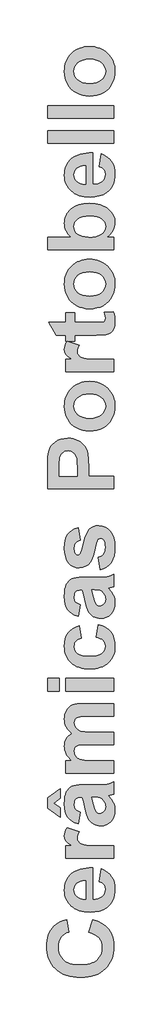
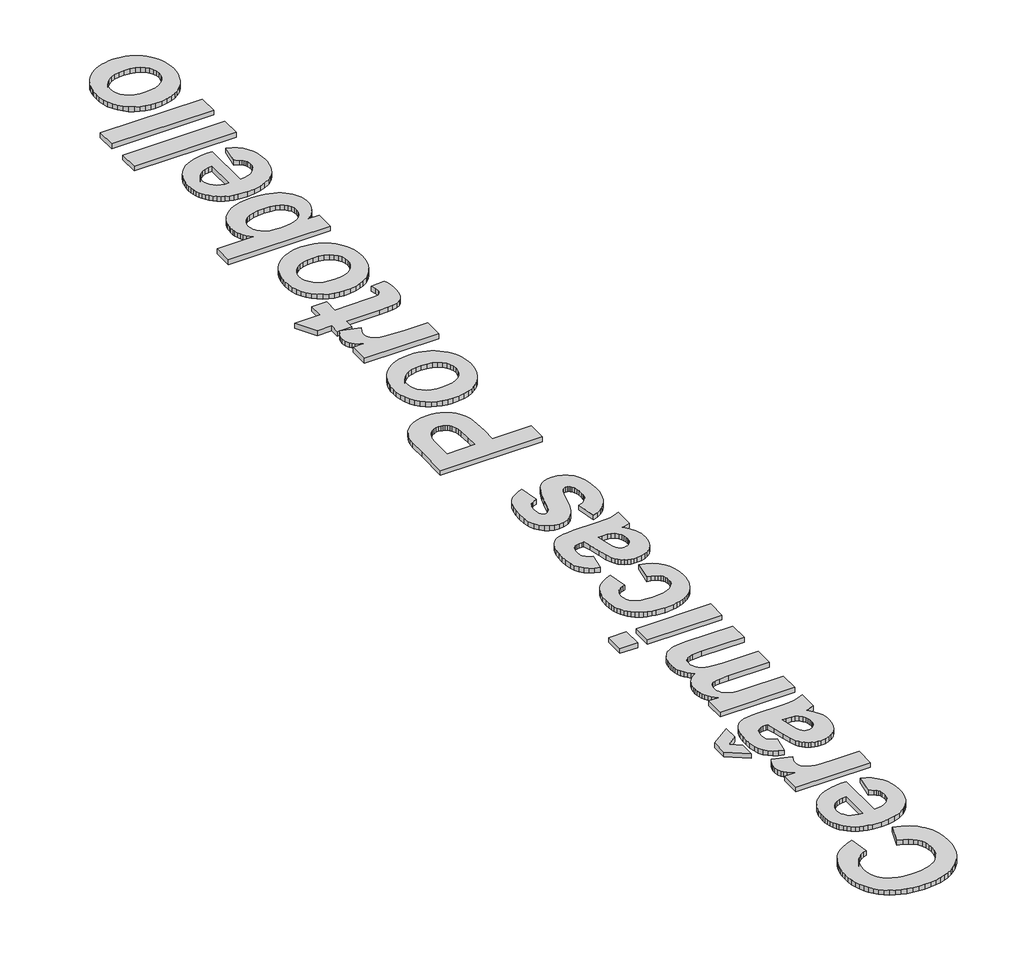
# One storey, part 5 of 8: 1 proxy.
"""IFC4 building model written with IfcOpenShell, lengths in millimetres."""

from ifc_helpers import new_model, si_unit, origin, origin_with_axes, place, context, project, spatial, polyline, outline, extrude, element, save

model = new_model("IFC4")

# Units and contexts
model_context = context("Model", 3, world=origin())
ifc_project = project(units=[si_unit("LENGTHUNIT", "METRE", prefix="MILLI")], contexts=[model_context])

# Site, building, storey
site = spatial("IfcSite", under=ifc_project)
building = spatial("IfcBuilding", under=site)
storey = spatial("IfcBuildingStorey", under=building, Name="PORTOBELLO - SHOWROOM", Elevation=0.0)

# Proxy
placement = place(None, origin())
element("IfcBuildingElementProxy", 1, Name="1000mm Arial", ObjectType="1000mm Arial", at=placement, inside=storey, context=model_context, shape_type="SweptSolid", body=[
    extrude(outline(polyline([(-12629.4721543, -6148.9640974), (-12564.6937797, -5954.6289736), (-12487.8564426, -5981.4670843), (-12421.5677323, -6015.9280409), (-12365.827649, -6058.0118434), (-12341.9133425, -6081.9123118), (-12320.6361926, -6107.7184917), (-12285.7086925, -6164.8423904), (-12260.7604782, -6229.177944), (-12245.7915496, -6300.7251527), (-12240.8019067, -6379.4840164), (-12242.9329824, -6429.2736936), (-12249.3262094, -6476.7939136), (-12259.9815878, -6522.0446763), (-12274.8991176, -6565.0259819), (-12294.0787987, -6605.7378302), (-12317.5206311, -6644.1802214), (-12345.224615, -6680.3531553), (-12377.1907501, -6714.256632), (-12412.8536492, -6744.9773333), (-12451.6479248, -6771.6019411), (-12493.573577, -6794.1304554), (-12538.6306056, -6812.5628762), (-12586.8190107, -6826.8992035), (-12638.1387923, -6837.1394373), (-12692.5899505, -6843.2835776), (-12750.1724851, -6845.3316243), (-12810.989194, -6843.2657857), (-12868.3107806, -6837.0682697), (-12922.137245, -6826.7390763), (-12972.468587, -6812.2782056), (-13019.3048069, -6793.6856576), (-13062.6459044, -6770.9614323), (-13102.4918797, -6744.1055296), (-13138.8427327, -6713.1179496), (-13171.2833189, -6678.7617676), (-13199.3984936, -6641.8000589), (-13223.1882567, -6602.2328236), (-13242.6526084, -6560.0600616), (-13257.7915486, -6515.2817729), (-13268.6050774, -6467.8979576), (-13275.0931946, -6417.9086156), (-13277.2559003, -6365.3137469), (-13275.4727554, -6319.3552614), (-13270.1233205, -6275.6108805), (-13261.2075957, -6234.0806042), (-13248.7255811, -6194.7644325), (-13232.6772765, -6157.6623654), (-13213.062682, -6122.774403), (-13189.8817975, -6090.1005451), (-13163.1346232, -6059.6407918), (-13125.7953306, -6026.7929685), (-13081.0862327, -5998.3417244), (-13029.0073295, -5974.2870594), (-12969.558621, -5954.6289736), (-12937.1694337, -6148.9640974), (-12972.7611651, -6161.2128403), (-13004.3833233, -6178.7279892), (-13032.0359083, -6201.5095441), (-13055.71892, -6229.5575048), (-13074.704867, -6261.8913395), (-13088.2662576, -6297.5305161), (-13096.4030921, -6336.4750345), (-13099.1153702, -6378.7248948), (-13094.1889875, -6436.4734873), (-13079.4098392, -6488.5128529), (-13054.7779256, -6534.8429917), (-13020.2932464, -6575.4639036), (-12999.0635417, -6593.166856), (-12974.7854893, -6608.5094147), (-12947.4590894, -6621.4915798), (-12917.084342, -6632.1133513), (-12847.1898042, -6646.2757132), (-12765.1018762, -6650.9965005), (-12678.2140856, -6646.4180485), (-12604.8007031, -6632.6826925), (-12573.1469148, -6622.3811754), (-12544.8617285, -6609.7904324), (-12519.9451443, -6594.9104634), (-12498.397162, -6577.7412683), (-12463.6357197, -6538.353929), (-12438.8061182, -6493.4471432), (-12423.9083572, -6443.0209109), (-12418.9424369, -6387.0752321), (-12422.113351, -6345.4263431), (-12431.6260932, -6306.7664953), (-12447.4806637, -6271.0956886), (-12469.6770623, -6238.4139232), (-12498.6897401, -6209.4328755), (-12534.993148, -6184.864222), (-12578.5872861, -6164.7079626), (-12629.4721543, -6148.9640974)])), origin_with_axes(), (0.0, 0.0, 1.0), 50.0),
    extrude(outline(polyline([(-12467.5262178, -5371.6236022), (-12435.1370305, -5177.2884784), (-12386.7193074, -5198.290842), (-12344.4536321, -5224.6070567), (-12308.3400046, -5256.2371224), (-12278.3784248, -5293.1810392), (-12254.8535634, -5335.2648416), (-12238.050091, -5382.3145644), (-12227.9680076, -5434.3302075), (-12224.6073131, -5491.3117709), (-12226.5881459, -5536.8472042), (-12232.5306445, -5579.3224287), (-12242.4348089, -5618.7374444), (-12256.3006389, -5655.0922512), (-12274.1281347, -5688.3868491), (-12295.9172963, -5718.6212382), (-12321.6681235, -5745.7954184), (-12351.3806165, -5769.9093898), (-12405.4522139, -5801.1282646), (-12466.1977551, -5823.427461), (-12533.6172402, -5836.8069788), (-12607.7106691, -5841.266818), (-12695.0729106, -5835.3519957), (-12735.0058686, -5827.9584679), (-12772.4400514, -5817.6075289), (-12807.375459, -5804.2991787), (-12839.8120914, -5788.0334174), (-12869.7499486, -5768.810245), (-12897.1890306, -5746.6296614), (-12921.7418691, -5722.1875281), (-12943.0209958, -5696.1797066), (-12961.0264108, -5668.6061968), (-12975.7581139, -5639.4669987), (-12987.2161052, -5608.7621124), (-12995.4003847, -5576.4915379), (-13000.3109524, -5542.6552751), (-13001.9478083, -5507.253324), (-13000.267461, -5467.7117881), (-12995.2264193, -5430.3131891), (-12986.8246831, -5395.0575271), (-12975.0622524, -5361.9448021), (-12959.9391272, -5330.975014), (-12941.4553076, -5302.1481628), (-12919.6107935, -5275.4642486), (-12894.4055848, -5250.9232714), (-12865.7289765, -5228.983867), (-12833.4702632, -5210.1046716), (-12797.629445, -5194.2856849), (-12758.2065218, -5181.5269072), (-12715.2014937, -5171.8283383), (-12668.6143607, -5165.1899782), (-12618.4451227, -5161.611827), (-12564.6937797, -5161.0938847), (-12564.6937797, -5646.9316942), (-12521.2024394, -5643.3100517), (-12482.8351696, -5634.4694483), (-12449.5919706, -5620.4098841), (-12421.4728421, -5601.1313591), (-12399.1103857, -5577.8990758), (-12383.1372025, -5551.9782369), (-12373.5532926, -5523.3688425), (-12370.3586559, -5492.0708924), (-12376.1153279, -5451.2681077), (-12383.3111678, -5433.4761957), (-12393.3853438, -5417.4239373), (-12406.6541563, -5403.1745927), (-12423.4339062, -5390.791422), (-12467.5262178, -5371.6236022)]), holes=[polyline([(-12678.0559353, -5355.4290085), (-12719.088038, -5358.8925007), (-12754.8853649, -5367.2586531), (-12785.4479159, -5380.5274657), (-12810.7756911, -5398.6989384), (-12830.6472798, -5420.4287936), (-12844.8412718, -5444.3727533), (-12853.357667, -5470.5308177), (-12856.1964654, -5498.9029866), (-12853.2074242, -5529.0464393), (-12844.2403006, -5556.4697063), (-12829.2950945, -5581.1727876), (-12808.3718061, -5603.1556833), (-12782.1979267, -5621.0583005), (-12751.7539884, -5633.7735869), (-12717.0399913, -5641.3015425), (-12678.0559353, -5643.6421674), (-12678.0559353, -5355.4290085)])]), origin_with_axes(), (0.0, 0.0, 1.0), 50.0),
    extrude(outline(polyline([(-12240.8019067, -4821.0074181), (-12240.8019067, -5015.3425419), (-12985.7532146, -5015.3425419), (-12985.7532146, -4821.0074181), (-12882.0065991, -4821.0074181), (-12943.0209958, -4779.9515928), (-12964.0628971, -4761.0842586), (-12978.7946002, -4743.3239767), (-12996.1595063, -4706.5065801), (-13001.9478083, -4664.8814137), (-12999.385773, -4634.2793251), (-12991.699667, -4604.2149476), (-12978.8894904, -4574.6882812), (-12960.9552431, -4545.699326), (-12775.9826188, -4602.3804038), (-12799.7051681, -4649.1929011), (-12805.6358054, -4671.2706869), (-12807.6126845, -4692.462831), (-12802.077423, -4729.8179386), (-12795.1583461, -4746.14696), (-12785.4716385, -4760.9102932), (-12772.1791034, -4774.1474757), (-12754.442544, -4785.8980451), (-12705.6373526, -4804.9393447), (-12668.8832162, -4811.9691268), (-12616.314047, -4816.9903997), (-12463.7306099, -4821.0074181), (-12240.8019067, -4821.0074181)])), origin_with_axes(), (0.0, 0.0, 1.0), 50.0),
    extrude(outline(polyline([(-12759.0289035, -4302.7804213), (-12791.4180908, -4480.9209514), (-12841.5833751, -4464.1807391), (-12884.7900448, -4442.3006412), (-12921.0381002, -4415.2806575), (-12950.327541, -4383.1207882), (-12972.911408, -4344.1920848), (-12989.0427415, -4296.865599), (-12998.7215416, -4241.1413307), (-13001.9478083, -4177.0192799), (-12999.9946517, -4118.8674041), (-12994.1351821, -4068.6546748), (-12984.3693993, -4026.3810919), (-12970.6973034, -3992.0466556), (-12954.0282587, -3963.9275272), (-12935.2716297, -3940.2998681), (-12914.4274164, -3921.1636783), (-12891.4956188, -3906.5189579), (-12862.498756, -3895.6698453), (-12823.4593474, -3887.9204792), (-12774.3773929, -3883.2708596), (-12715.2528926, -3881.7209864), (-12485.4920952, -3881.7209864), (-12400.217438, -3879.158951), (-12340.7529144, -3871.4728451), (-12292.4854341, -3856.7648645), (-12240.8019067, -3833.1372054), (-12240.8019067, -4027.4723292), (-12302.543795, -4045.6912471), (-12327.088726, -4052.5233413), (-12282.332183, -4102.8151458), (-12250.2909264, -4156.5229974), (-12239.0543456, -4184.6895709), (-12231.0282164, -4213.7734163), (-12226.2125389, -4243.7745337), (-12224.6073131, -4274.6929229), (-12228.5057187, -4327.1751095), (-12240.2009355, -4373.7899188), (-12259.6929635, -4414.537351), (-12286.9818027, -4449.417406), (-12320.2170942, -4477.3704765), (-12357.5484793, -4497.3369555), (-12398.9759579, -4509.3168429), (-12444.49953, -4513.3101387), (-12475.1490637, -4511.5309475), (-12504.0905738, -4506.1933739), (-12531.3240604, -4497.2974179), (-12556.8495234, -4484.8430796), (-12580.0818067, -4469.1782895), (-12600.435754, -4450.6509785), (-12617.9113653, -4429.2611466), (-12632.5086406, -4405.0087937), (-12657.1168318, -4342.3180034), (-12678.3089758, -4256.9800861), (-12703.2967277, -4146.4646365), (-12726.6397162, -4076.0561102), (-12747.1359988, -4076.0561102), (-12774.4960057, -4077.5664458), (-12797.6175837, -4082.0974527), (-12816.500733, -4089.6491309), (-12831.1454534, -4100.2214804), (-12842.1052712, -4114.9689985), (-12849.9337124, -4135.0461827), (-12854.6307772, -4160.453033), (-12856.1964654, -4191.1895494), (-12850.8193543, -4231.4862531), (-12844.0979653, -4247.8864422), (-12834.6880207, -4261.7878561), (-12821.8936592, -4273.8389111), (-12805.0190191, -4284.6880237), (-12759.0289035, -4302.7804213)]), holes=[polyline([(-12580.8883734, -4076.0561102), (-12553.9395574, -4185.6226578), (-12538.4724552, -4247.6175866), (-12523.1951335, -4283.8023818), (-12510.2109915, -4299.1904088), (-12495.5504561, -4310.1818566), (-12479.2135271, -4316.7767253), (-12461.2002047, -4318.9750149), (-12443.3529401, -4317.2116387), (-12426.7550631, -4311.9215103), (-12411.4065737, -4303.1046294), (-12397.3074719, -4290.7609963), (-12385.5173649, -4275.6971775), (-12377.0958599, -4258.7197397), (-12372.0429569, -4239.828683), (-12370.3586559, -4219.0240072), (-12372.31972, -4194.9060821), (-12378.2029122, -4171.3891283), (-12388.0082326, -4148.4731456), (-12401.7356811, -4126.1581343), (-12428.1784161, -4098.9562777), (-12459.9350021, -4083.1412449), (-12492.64049, -4077.8273938), (-12545.7157403, -4076.0561102), (-12580.8883734, -4076.0561102)])]), origin_with_axes(), (0.0, 0.0, 1.0), 50.0),
    extrude(outline(polyline([(-13066.7261829, -4383.7533895), (-13261.0613067, -4245.0871814), (-13261.0613067, -4083.1412449), (-13066.7261829, -3946.499361), (-13066.7261829, -4092.2507038), (-13163.8937448, -4165.1263752), (-13066.7261829, -4238.0020467), (-13066.7261829, -4383.7533895)])), origin_with_axes(), (0.0, 0.0, 1.0), 50.0),
    extrude(outline(polyline([(-12985.7532146, -3703.5804562), (-12985.7532146, -3509.2453324), (-12886.0552475, -3509.2453324), (-12913.2175664, -3485.8667601), (-12936.7582428, -3461.404858), (-12956.6772767, -3435.8596262), (-12972.9746681, -3409.2310646), (-12985.6504169, -3381.5191733), (-12994.7045232, -3352.7239522), (-13000.136987, -3322.8454013), (-13001.9478083, -3291.8835208), (-13000.1686171, -3259.4706109), (-12994.8310435, -3229.2876207), (-12985.9350875, -3201.3345501), (-12973.4807491, -3175.6113992), (-12957.4205833, -3152.1023528), (-12937.7071448, -3130.791596), (-12914.3404338, -3111.6791288), (-12887.3204501, -3094.7649512), (-12914.3404338, -3070.370263), (-12937.7071448, -3045.0108578), (-12957.4205833, -3018.6867356), (-12973.4807491, -2991.3978964), (-12985.9350875, -2963.1601552), (-12994.8310435, -2933.9893271), (-13000.1686171, -2903.8854121), (-13001.9478083, -2872.8484101), (-12999.8681315, -2834.4020652), (-12993.629101, -2799.0238367), (-12983.2307169, -2766.7137245), (-12968.6729791, -2737.4717288), (-12950.082408, -2711.5034448), (-12927.5855238, -2689.0144681), (-12901.1823264, -2670.0047986), (-12870.8728159, -2654.4744363), (-12843.4021039, -2645.8394284), (-12808.5615865, -2639.6715656), (-12716.7711357, -2634.7372753), (-12240.8019067, -2634.7372753), (-12240.8019067, -2829.0723991), (-12669.7055979, -2829.0723991), (-12761.4960487, -2834.0066894), (-12792.5409582, -2840.1745522), (-12813.6856571, -2848.8095601), (-12832.2841357, -2863.7705812), (-12845.5687634, -2882.3374298), (-12853.5395399, -2904.5101059), (-12856.1964654, -2930.2886094), (-12854.6070546, -2949.9862328), (-12849.8388222, -2969.0987001), (-12830.7658926, -3005.5681658), (-12816.5719006, -3021.9841699), (-12799.4204975, -3035.9330289), (-12779.3116832, -3047.4147428), (-12756.2454578, -3056.4293115), (-12728.1421444, -3063.2376832), (-12692.9220662, -3068.1008058), (-12601.1316154, -3071.9913039), (-12240.8019067, -3071.9913039), (-12240.8019067, -3266.3264277), (-12651.9927611, -3266.3264277), (-12742.1068184, -3268.8568329), (-12793.3158948, -3276.4480487), (-12821.0238324, -3289.3214854), (-12840.6344731, -3307.6985536), (-12852.3059674, -3332.6546755), (-12856.1964654, -3365.2652732), (-12854.6544997, -3386.5997526), (-12850.0286026, -3406.8271796), (-12842.3187741, -3425.9475543), (-12831.5250142, -3443.9608768), (-12817.8133807, -3460.1871005), (-12801.3499315, -3473.9461791), (-12782.1346665, -3485.2381125), (-12760.1675859, -3494.0629009), (-12732.9894519, -3500.7052147), (-12698.141027, -3505.4497245), (-12605.4333044, -3509.2453324), (-12240.8019067, -3509.2453324), (-12240.8019067, -3703.5804562), (-12985.7532146, -3703.5804562)])), origin_with_axes(), (0.0, 0.0, 1.0), 50.0),
    extrude(outline(polyline([(-12240.8019067, -2440.4021515), (-12985.7532146, -2440.4021515), (-12985.7532146, -2246.0670277), (-12240.8019067, -2246.0670277), (-12240.8019067, -2440.4021515)])), origin_with_axes(), (0.0, 0.0, 1.0), 50.0),
    extrude(outline(polyline([(-13082.9207765, -2440.4021515), (-13261.0613067, -2440.4021515), (-13261.0613067, -2246.0670277), (-13082.9207765, -2246.0670277), (-13082.9207765, -2440.4021515)])), origin_with_axes(), (0.0, 0.0, 1.0), 50.0),
    extrude(outline(polyline([(-12775.2234972, -1436.3373452), (-12742.8343099, -1630.672469), (-12769.3007674, -1636.674274), (-12792.2721026, -1645.57023), (-12811.7483156, -1657.3603369), (-12827.7294063, -1672.044595), (-12840.1837447, -1689.3857785), (-12849.0797006, -1709.1466621), (-12854.4172742, -1731.3272456), (-12856.1964654, -1755.9275293), (-12852.8594935, -1788.4748669), (-12842.8485777, -1817.5428973), (-12826.163718, -1843.1316205), (-12802.8049145, -1865.2410364), (-12771.6334847, -1883.0645784), (-12731.5107464, -1895.7956799), (-12682.4366994, -1903.4343408), (-12624.4113438, -1905.980561), (-12559.9334548, -1903.331543), (-12505.6720771, -1895.384489), (-12461.6272106, -1882.139399), (-12427.7988553, -1863.596273), (-12402.6687681, -1840.5933077), (-12384.7187058, -1813.9686999), (-12373.9486684, -1783.7224495), (-12370.3586559, -1749.8545566), (-12372.4067027, -1724.3686312), (-12378.550843, -1701.3024058), (-12388.7910767, -1680.6558804), (-12403.127404, -1662.429055), (-12422.4770967, -1646.6693747), (-12447.7574268, -1633.4242847), (-12478.9683941, -1622.6937849), (-12516.1099988, -1614.4778753), (-12483.7208115, -1420.1427515), (-12423.5050739, -1438.0532763), (-12371.1494076, -1462.6851899), (-12326.6538126, -1494.0384926), (-12290.018289, -1532.1131842), (-12261.400987, -1577.0674151), (-12240.9600571, -1629.0593356), (-12228.6954991, -1688.0889458), (-12224.6073131, -1754.1562456), (-12226.2164927, -1792.69155), (-12231.0440315, -1829.2222991), (-12239.0899294, -1863.7484927), (-12250.3541866, -1896.2701309), (-12264.8368029, -1926.7872137), (-12282.5377785, -1955.299741), (-12303.4571132, -1981.807713), (-12327.5948071, -2006.3111295), (-12354.5752531, -2028.3434472), (-12384.0228443, -2047.4381225), (-12415.9375806, -2063.5951554), (-12450.3194621, -2076.814546), (-12487.1684886, -2087.0962943), (-12526.4846603, -2094.4404001), (-12612.5184391, -2100.3156848), (-12699.5248424, -2094.4799377), (-12739.202783, -2087.1852538), (-12776.3305495, -2076.9726963), (-12810.908142, -2063.8422653), (-12842.9355604, -2047.7939607), (-12872.4128048, -2028.8277826), (-12899.3398751, -2006.9437308), (-12923.3886094, -1982.5688114), (-12944.2308459, -1956.1300303), (-12961.8665844, -1927.6273873), (-12976.295825, -1897.0608825), (-12987.5185677, -1864.430516), (-12995.5348125, -1829.7362876), (-13000.3445593, -1792.9781975), (-13001.9478083, -1754.1562456), (-12998.4447785, -1692.3352821), (-12987.9356892, -1637.1882625), (-12970.4205403, -1588.7151868), (-12945.8993318, -1546.916055), (-12914.2139135, -1511.1582657), (-12875.2061349, -1480.8092176), (-12828.8759962, -1455.8689108), (-12775.2234972, -1436.3373452)])), origin_with_axes(), (0.0, 0.0, 1.0), 50.0),
    extrude(outline(polyline([(-12759.0289035, -1112.4454722), (-12791.4180908, -1290.5860023), (-12841.5833751, -1273.8457901), (-12884.7900448, -1251.9656921), (-12921.0381002, -1224.9457085), (-12950.327541, -1192.7858391), (-12972.911408, -1153.8571357), (-12989.0427415, -1106.5306499), (-12998.7215416, -1050.8063816), (-13001.9478083, -986.6843309), (-12999.9946517, -928.532455), (-12994.1351821, -878.3197257), (-12984.3693993, -836.0461429), (-12970.6973034, -801.7117065), (-12954.0282587, -773.5925781), (-12935.2716297, -749.964919), (-12914.4274164, -730.8287292), (-12891.4956188, -716.1840088), (-12862.498756, -705.3348963), (-12823.4593474, -697.5855302), (-12774.3773929, -692.9359105), (-12715.2528926, -691.3860373), (-12485.4920952, -691.3860373), (-12400.217438, -688.824002), (-12340.7529144, -681.137896), (-12292.4854341, -666.4299154), (-12240.8019067, -642.8022563), (-12240.8019067, -837.1373801), (-12302.543795, -855.356298), (-12327.088726, -862.1883922), (-12282.332183, -912.4801967), (-12250.2909264, -966.1880483), (-12239.0543456, -994.3546218), (-12231.0282164, -1023.4384672), (-12226.2125389, -1053.4395846), (-12224.6073131, -1084.3579738), (-12228.5057187, -1136.8401604), (-12240.2009355, -1183.4549697), (-12259.6929635, -1224.2024019), (-12286.9818027, -1259.0824569), (-12320.2170942, -1287.0355275), (-12357.5484793, -1307.0020065), (-12398.9759579, -1318.9818938), (-12444.49953, -1322.9751896), (-12475.1490637, -1321.1959984), (-12504.0905738, -1315.8584249), (-12531.3240604, -1306.9624689), (-12556.8495234, -1294.5081305), (-12580.0818067, -1278.8433404), (-12600.435754, -1260.3160294), (-12617.9113653, -1238.9261975), (-12632.5086406, -1214.6738446), (-12657.1168318, -1151.9830543), (-12678.3089758, -1066.645137), (-12703.2967277, -956.1296874), (-12726.6397162, -885.7211611), (-12747.1359988, -885.7211611), (-12774.4960057, -887.2314967), (-12797.6175837, -891.7625036), (-12816.500733, -899.3141818), (-12831.1454534, -909.8865313), (-12842.1052712, -924.6340494), (-12849.9337124, -944.7112337), (-12854.6307772, -970.118084), (-12856.1964654, -1000.8546003), (-12850.8193543, -1041.1513041), (-12844.0979653, -1057.5514931), (-12834.6880207, -1071.452907), (-12821.8936592, -1083.5039621), (-12805.0190191, -1094.3530746), (-12759.0289035, -1112.4454722)]), holes=[polyline([(-12580.8883734, -885.7211611), (-12553.9395574, -995.2877088), (-12538.4724552, -1057.2826376), (-12523.1951335, -1093.4674328), (-12510.2109915, -1108.8554597), (-12495.5504561, -1119.8469076), (-12479.2135271, -1126.4417763), (-12461.2002047, -1128.6400658), (-12443.3529401, -1126.8766897), (-12426.7550631, -1121.5865612), (-12411.4065737, -1112.7696804), (-12397.3074719, -1100.4260472), (-12385.5173649, -1085.3622284), (-12377.0958599, -1068.3847906), (-12372.0429569, -1049.4937339), (-12370.3586559, -1028.6890582), (-12372.31972, -1004.571133), (-12378.2029122, -981.0541792), (-12388.0082326, -958.1381966), (-12401.7356811, -935.8231852), (-12428.1784161, -908.6213287), (-12459.9350021, -892.8062958), (-12492.64049, -887.4924448), (-12545.7157403, -885.7211611), (-12580.8883734, -885.7211611)])]), origin_with_axes(), (0.0, 0.0, 1.0), 50.0),
    extrude(outline(polyline([(-12451.3316242, -578.0238817), (-12483.7208115, -383.6887579), (-12457.5627471, -376.0263745), (-12434.7574697, -365.1851695), (-12415.3049793, -351.1651429), (-12399.2052759, -333.9662946), (-12386.5848796, -313.3197692), (-12377.5703109, -288.9567111), (-12372.1615697, -260.8771203), (-12370.3586559, -229.0809967), (-12372.0824945, -194.3037394), (-12377.2540103, -164.1128417), (-12385.8732032, -138.5083035), (-12397.9400732, -117.4901248), (-12408.3779949, -106.4196018), (-12420.46068, -98.5120854), (-12434.1881286, -93.7675755), (-12449.5603405, -92.1860722), (-12469.6770623, -95.5388592), (-12485.9981762, -105.5972201), (-12499.3460639, -128.5606478), (-12511.5552693, -169.1103921), (-12536.9542121, -273.4737939), (-12561.2777326, -356.8032021), (-12584.5258309, -419.0986165), (-12606.698507, -460.3600372), (-12639.7361107, -497.6676998), (-12678.6252765, -524.3160301), (-12723.3660044, -540.3050284), (-12773.9582946, -545.6346944), (-12820.2488957, -541.0641499), (-12862.712259, -527.3525164), (-12901.3483843, -504.499794), (-12936.1572716, -472.5059825), (-12964.9406314, -430.896631), (-12985.5001741, -379.1972886), (-12997.8358997, -317.4079552), (-13001.9478083, -245.5286309), (-12998.6266514, -177.0969837), (-12988.6631807, -118.059466), (-12972.0573962, -68.4160778), (-12948.8092979, -28.1668192), (-12919.045406, 4.6177439), (-12882.8922409, 31.8670455), (-12840.3498025, 53.5810856), (-12791.4180908, 69.7598643), (-12759.0289035, -124.5752595), (-12800.5908099, -138.8720492), (-12817.2440395, -149.341601), (-12831.1454534, -162.0252574), (-12842.1052712, -177.270949), (-12849.9337124, -195.4266068), (-12854.6307772, -216.4922305), (-12856.1964654, -240.4678203), (-12850.8826144, -295.8204354), (-12844.2403006, -316.6172036), (-12834.9410613, -332.8276123), (-12817.481265, -346.681581), (-12795.4667392, -351.2995706), (-12776.4254397, -346.681581), (-12760.2941062, -332.8276123), (-12749.6822191, -312.7820581), (-12737.0776379, -277.4433672), (-12705.8903931, -160.886575), (-12687.2760994, -92.8740262), (-12666.6058515, -35.9794454), (-12643.8796493, 9.7971672), (-12619.0974928, 44.4558117), (-12590.329948, 69.6966041), (-12556.4067025, 87.7257416), (-12517.3277563, 98.5432241), (-12473.0931094, 102.1490516), (-12423.9004497, 96.9221832), (-12378.2978024, 81.2415781), (-12336.2851676, 55.1072363), (-12297.8625453, 18.5191578), (-12280.6933502, -3.6436339), (-12265.8133812, -28.317062), (-12242.9211211, -85.1958277), (-12229.1857651, -152.1171393), (-12224.6073131, -229.0809967), (-12228.418736, -299.5923207), (-12239.8530048, -362.3384636), (-12258.9101194, -417.3194253), (-12285.5900798, -464.5352059), (-12318.8174638, -504.1281407), (-12357.5168492, -536.2405649), (-12401.688236, -560.8724786), (-12451.3316242, -578.0238817)])), origin_with_axes(), (0.0, 0.0, 1.0), 50.0),
    extrude(outline(polyline([(-12240.8019067, 668.9598293), (-13261.0613067, 668.9598293), (-13261.0613067, 997.6594723), (-13257.2656988, 1152.0774532), (-13252.5211889, 1204.8522178), (-13245.8788751, 1241.3374986), (-13231.131357, 1283.2077981), (-13209.6624499, 1321.5197152), (-13181.4721538, 1356.27325), (-13146.5604688, 1387.4684023), (-13105.512551, 1413.2073683), (-13058.9135567, 1431.592344), (-13006.7634858, 1442.6233294), (-12949.0623384, 1446.3003245), (-12904.2346278, 1444.1415725), (-12863.1234498, 1437.6653166), (-12825.7288046, 1426.8715567), (-12792.0506921, 1411.7602928), (-12761.9388696, 1393.3199644), (-12735.2430941, 1372.5390113), (-12711.9633657, 1349.4174332), (-12692.0996845, 1323.9552303), (-12661.8929717, 1270.2790088), (-12643.8954643, 1215.7804055), (-12633.0779818, 1124.3695156), (-12629.4721543, 999.430756), (-12629.4721543, 863.2949531), (-12240.8019067, 863.2949531), (-12240.8019067, 668.9598293)]), holes=[polyline([(-13082.9207765, 863.2949531), (-12807.6126845, 863.2949531), (-12807.6126845, 983.9952839), (-12811.4082924, 1092.7078198), (-12816.1528022, 1130.8615866), (-12822.795116, 1158.2136859), (-12842.3108666, 1197.3717073), (-12855.3187311, 1213.3923356), (-12870.4932551, 1227.0407089), (-12887.4074328, 1237.9451741), (-12905.6342582, 1245.7340778), (-12925.1737313, 1250.40742), (-12946.0258521, 1251.9652007), (-12971.3140896, 1249.7748187), (-12994.2933324, 1243.2036725), (-13014.9635803, 1232.2517623), (-13033.3248335, 1216.9190879), (-13048.9184559, 1198.2494416), (-13061.2858116, 1177.2866156), (-13070.4269006, 1154.0306097), (-13076.3417229, 1128.4814241), (-13081.2760131, 1069.0801607), (-13082.9207765, 969.8250145), (-13082.9207765, 863.2949531)])]), origin_with_axes(), (0.0, 0.0, 1.0), 50.0),
    extrude(outline(polyline([(-12623.9052628, 1559.6624801), (-12672.4811362, 1562.6594288), (-12720.282073, 1571.650275), (-12767.3080732, 1586.6350186), (-12813.5591368, 1607.6136597), (-12856.710454, 1634.0801172), (-12894.4372149, 1665.5283101), (-12926.7394195, 1701.9582382), (-12953.6170679, 1743.3699018), (-12974.7617668, 1788.5534507), (-12989.8651232, 1836.2990349), (-12998.927137, 1886.6066544), (-13001.9478083, 1939.4763093), (-13000.235831, 1980.4075912), (-12995.0998991, 2019.4450229), (-12986.5400125, 2056.5886045), (-12974.5561714, 2091.8383359), (-12959.1483756, 2125.194217), (-12940.3166252, 2156.656248), (-12918.0609202, 2186.2244289), (-12892.3812606, 2213.8987595), (-12864.0842131, 2238.9557022), (-12833.9763443, 2260.6717192), (-12802.0576542, 2279.0468105), (-12768.3281429, 2294.0809761), (-12732.7878103, 2305.774216), (-12695.4366564, 2314.1265302), (-12656.2746813, 2319.1379188), (-12615.3018849, 2320.8083816), (-12574.010811, 2319.1201269), (-12534.5266046, 2314.0553626), (-12496.8492656, 2305.6140888), (-12460.9787942, 2293.7963055), (-12426.9151903, 2278.6020127), (-12394.6584539, 2260.0312103), (-12364.208585, 2238.0838985), (-12335.5655836, 2212.7600771), (-12309.559739, 2184.8781742), (-12287.0213403, 2155.2566176), (-12267.9503875, 2123.8954075), (-12252.3468807, 2090.7945437), (-12240.2108199, 2055.9540263), (-12231.542205, 2019.3738553), (-12226.3410361, 1981.0540307), (-12224.6073131, 1940.9945524), (-12227.4935566, 1890.8529907), (-12236.1522871, 1841.8975565), (-12250.5835046, 1794.1282498), (-12270.787209, 1747.5450705), (-12296.5736201, 1704.3067706), (-12327.7529574, 1666.5721022), (-12364.3252209, 1634.3410652), (-12406.2904106, 1607.6136597), (-12453.3875785, 1586.6350186), (-12505.3557764, 1571.650275), (-12562.1950045, 1562.6594288), (-12623.9052628, 1559.6624801)]), holes=[polyline([(-12613.2775607, 1753.9976039), (-12557.8854081, 1757.3582984), (-12509.3727948, 1767.4403818), (-12467.7397208, 1784.2438542), (-12432.9861861, 1807.7687156), (-12405.5866416, 1836.2278672), (-12386.0155385, 1867.8342104), (-12374.2728766, 1902.5877451), (-12370.3586559, 1940.4884714), (-12374.2728766, 1978.3733826), (-12386.0155385, 2013.0794722), (-12405.5866416, 2044.6067402), (-12432.9861861, 2072.9551866), (-12467.834611, 2096.3693428), (-12509.7523556, 2113.09374), (-12558.7394199, 2123.1283784), (-12614.7958038, 2126.4732578), (-12669.5237251, 2123.1283784), (-12717.5618874, 2113.09374), (-12758.9102908, 2096.3693428), (-12793.5689353, 2072.9551866), (-12820.9684797, 2044.6067402), (-12840.5395829, 2013.0794722), (-12852.2822448, 1978.3733826), (-12856.1964654, 1940.4884714), (-12852.2822448, 1902.5877451), (-12840.5395829, 1867.8342104), (-12820.9684797, 1836.2278672), (-12793.5689353, 1807.7687156), (-12758.8154006, 1784.2438542), (-12717.1823266, 1767.4403818), (-12668.6697133, 1757.3582984), (-12613.2775607, 1753.9976039)])]), origin_with_axes(), (0.0, 0.0, 1.0), 50.0),
    extrude(outline(polyline([(-12240.8019067, 2660.8948483), (-12240.8019067, 2466.5597245), (-12985.7532146, 2466.5597245), (-12985.7532146, 2660.8948483), (-12882.0065991, 2660.8948483), (-12943.0209958, 2701.9506736), (-12964.0628971, 2720.8180078), (-12978.7946002, 2738.5782897), (-12996.1595063, 2775.3956862), (-13001.9478083, 2817.0208527), (-12999.385773, 2847.6229413), (-12991.699667, 2877.6873187), (-12978.8894904, 2907.2139851), (-12960.9552431, 2936.2029403), (-12775.9826188, 2879.5218626), (-12799.7051681, 2832.7093653), (-12805.6358054, 2810.6315794), (-12807.6126845, 2789.4394354), (-12802.077423, 2752.0843278), (-12795.1583461, 2735.7553063), (-12785.4716385, 2720.9919732), (-12772.1791034, 2707.7547907), (-12754.442544, 2696.0042212), (-12705.6373526, 2676.9629217), (-12668.8832162, 2669.9331396), (-12616.314047, 2664.9118666), (-12463.7306099, 2660.8948483), (-12240.8019067, 2660.8948483)])), origin_with_axes(), (0.0, 0.0, 1.0), 50.0),
    extrude(outline(polyline([(-12985.7532146, 3373.4569689), (-12840.0018718, 3373.4569689), (-12840.0018718, 3227.705626), (-12520.4116877, 3227.705626), (-12443.7087783, 3228.8126783), (-12407.429093, 3232.1338352), (-12392.7527425, 3239.3771203), (-12380.8598378, 3252.250557), (-12372.9839514, 3269.6470932), (-12370.3586559, 3290.4596764), (-12375.0399057, 3328.9218364), (-12389.0836548, 3381.5542657), (-12250.9235278, 3389.6515625), (-12239.4101838, 3353.3244321), (-12231.1863668, 3314.6883068), (-12226.2520765, 3273.7431867), (-12224.6073131, 3230.4890718), (-12229.1620425, 3178.7422843), (-12242.8262309, 3132.3093478), (-12263.7020743, 3094.384899), (-12289.8917687, 3068.1635745), (-12323.8624593, 3050.8619286), (-12368.0812912, 3039.6965154), (-12420.903501, 3034.9520055), (-12509.5309451, 3033.3705022), (-12840.0018718, 3033.3705022), (-12840.0018718, 2936.2029403), (-12960.9552431, 2936.2029403), (-12985.7532146, 2936.2029403), (-12985.7532146, 3033.3705022), (-13131.5045575, 3033.3705022), (-13244.866713, 3227.705626), (-12985.7532146, 3227.705626), (-12985.7532146, 3373.4569689)])), origin_with_axes(), (0.0, 0.0, 1.0), 50.0),
    extrude(outline(polyline([(-12623.9052628, 3438.2353435), (-12672.4811362, 3441.2322922), (-12720.282073, 3450.2231384), (-12767.3080732, 3465.207882), (-12813.5591368, 3486.1865231), (-12856.710454, 3512.6529806), (-12894.4372149, 3544.1011735), (-12926.7394195, 3580.5311017), (-12953.6170679, 3621.9427652), (-12974.7617668, 3667.1263141), (-12989.8651232, 3714.8718983), (-12998.927137, 3765.1795178), (-13001.9478083, 3818.0491727), (-13000.235831, 3858.9804546), (-12995.0998991, 3898.0178864), (-12986.5400125, 3935.1614679), (-12974.5561714, 3970.4111993), (-12959.1483756, 4003.7670805), (-12940.3166252, 4035.2291115), (-12918.0609202, 4064.7972923), (-12892.3812606, 4092.4716229), (-12864.0842131, 4117.5285656), (-12833.9763443, 4139.2445826), (-12802.0576542, 4157.6196739), (-12768.3281429, 4172.6538395), (-12732.7878103, 4184.3470794), (-12695.4366564, 4192.6993937), (-12656.2746813, 4197.7107822), (-12615.3018849, 4199.381245), (-12574.010811, 4197.6929903), (-12534.5266046, 4192.628226), (-12496.8492656, 4184.1869522), (-12460.9787942, 4172.3691689), (-12426.9151903, 4157.1748761), (-12394.6584539, 4138.6040738), (-12364.208585, 4116.6567619), (-12335.5655836, 4091.3329405), (-12309.559739, 4063.4510376), (-12287.0213403, 4033.8294811), (-12267.9503875, 4002.4682709), (-12252.3468807, 3969.3674071), (-12240.2108199, 3934.5268897), (-12231.542205, 3897.9467187), (-12226.3410361, 3859.6268941), (-12224.6073131, 3819.5674158), (-12227.4935566, 3769.4258542), (-12236.1522871, 3720.4704199), (-12250.5835046, 3672.7011132), (-12270.787209, 3626.1179339), (-12296.5736201, 3582.879634), (-12327.7529574, 3545.1449656), (-12364.3252209, 3512.9139287), (-12406.2904106, 3486.1865231), (-12453.3875785, 3465.207882), (-12505.3557764, 3450.2231384), (-12562.1950045, 3441.2322922), (-12623.9052628, 3438.2353435)]), holes=[polyline([(-12613.2775607, 3632.5704673), (-12557.8854081, 3635.9311618), (-12509.3727948, 3646.0132452), (-12467.7397208, 3662.8167176), (-12432.9861861, 3686.341579), (-12405.5866416, 3714.8007307), (-12386.0155385, 3746.4070738), (-12374.2728766, 3781.1606085), (-12370.3586559, 3819.0613348), (-12374.2728766, 3856.946246), (-12386.0155385, 3891.6523356), (-12405.5866416, 3923.1796036), (-12432.9861861, 3951.52805), (-12467.834611, 3974.9422062), (-12509.7523556, 3991.6666034), (-12558.7394199, 4001.7012418), (-12614.7958038, 4005.0461212), (-12669.5237251, 4001.7012418), (-12717.5618874, 3991.6666034), (-12758.9102908, 3974.9422062), (-12793.5689353, 3951.52805), (-12820.9684797, 3923.1796036), (-12840.5395829, 3891.6523356), (-12852.2822448, 3856.946246), (-12856.1964654, 3819.0613348), (-12852.2822448, 3781.1606085), (-12840.5395829, 3746.4070738), (-12820.9684797, 3714.8007307), (-12793.5689353, 3686.341579), (-12758.8154006, 3662.8167176), (-12717.1823266, 3646.0132452), (-12668.6697133, 3635.9311618), (-12613.2775607, 3632.5704673)])]), origin_with_axes(), (0.0, 0.0, 1.0), 50.0),
    extrude(outline(polyline([(-12240.8019067, 4345.1325879), (-13261.0613067, 4345.1325879), (-13261.0613067, 4539.4677117), (-12899.9724764, 4539.4677117), (-12944.5866841, 4586.0587985), (-12962.1136943, 4610.8963076), (-12976.4539753, 4636.7617939), (-12987.6075272, 4663.6552572), (-12995.57435, 4691.5766978), (-13000.3544437, 4720.5261154), (-13001.9478083, 4750.5035102), (-13000.4097963, 4783.0587553), (-12995.7957605, 4814.1748325), (-12988.1057008, 4843.8517417), (-12977.3396172, 4872.0894828), (-12963.4975096, 4898.888056), (-12946.5793782, 4924.2474612), (-12926.5852229, 4948.1676984), (-12903.5150438, 4970.6487676), (-12877.5665286, 4991.05016), (-12848.9373654, 5008.7313668), (-12817.627554, 5023.6923878), (-12783.6370947, 5035.9332233), (-12746.9659872, 5045.4538731), (-12707.6142317, 5052.2543372), (-12620.8687765, 5057.6947085), (-12531.1817251, 5052.2859673), (-12490.4303392, 5045.5250407), (-12452.4070464, 5036.0597435), (-12417.1118468, 5023.8900758), (-12384.5447404, 5009.0160374), (-12354.7057272, 4991.4376283), (-12327.5948071, 4971.1548487), (-12282.5377785, 4925.575924), (-12264.8368029, 4901.0547155), (-12250.3541866, 4875.3790097), (-12239.0899294, 4848.5488064), (-12231.0440315, 4820.5641058), (-12226.2164927, 4791.4249077), (-12224.6073131, 4761.1312123), (-12226.5525621, 4730.8691469), (-12232.3883092, 4700.8126769), (-12242.1145545, 4670.9618024), (-12255.7312978, 4641.3165233), (-12273.175279, 4612.7941116), (-12294.3832381, 4586.311839), (-12319.355175, 4561.8697057), (-12348.0910897, 4539.4677117), (-12240.8019067, 4539.4677117), (-12240.8019067, 4345.1325879)]), holes=[polyline([(-12627.4478301, 4539.4677117), (-12571.7472844, 4541.7134464), (-12523.8277348, 4548.4506504), (-12483.6891814, 4559.6793237), (-12451.3316242, 4575.3994664), (-12415.9059506, 4602.5380627), (-12390.601898, 4633.8518278), (-12375.4194664, 4669.3407616), (-12370.3586559, 4709.004864), (-12373.9486684, 4739.8362705), (-12384.7187058, 4768.3112372), (-12402.6687681, 4794.429764), (-12427.7988553, 4818.1918508), (-12460.6308635, 4837.9527344), (-12501.6866888, 4852.0676512), (-12550.9663312, 4860.5366013), (-12608.4697907, 4863.3595847), (-12669.6660604, 4860.5207863), (-12721.6737959, 4852.0043911), (-12764.4929974, 4837.8103991), (-12798.1236648, 4817.9388103), (-12823.5305151, 4793.6231973), (-12841.6782653, 4766.0971326), (-12852.5669154, 4735.3606162), (-12856.1964654, 4701.4136482), (-12852.6538981, 4668.0834664), (-12842.026196, 4637.6790658), (-12824.3133592, 4610.2004462), (-12799.5153877, 4585.6476077), (-12767.5057611, 4565.4439032), (-12728.1579594, 4551.0126857), (-12681.4719824, 4542.3539552), (-12627.4478301, 4539.4677117)])]), origin_with_axes(), (0.0, 0.0, 1.0), 50.0),
    extrude(outline(polyline([(-12467.5262178, 5624.5054863), (-12435.1370305, 5818.8406101), (-12386.7193074, 5797.8382464), (-12344.4536321, 5771.5220317), (-12308.3400046, 5739.891966), (-12278.3784248, 5702.9480492), (-12254.8535634, 5660.8642468), (-12238.050091, 5613.814524), (-12227.9680076, 5561.798881), (-12224.6073131, 5504.8173176), (-12226.5881459, 5459.2818842), (-12232.5306445, 5416.8066597), (-12242.4348089, 5377.391644), (-12256.3006389, 5341.0368372), (-12274.1281347, 5307.7422393), (-12295.9172963, 5277.5078502), (-12321.6681235, 5250.33367), (-12351.3806165, 5226.2196987), (-12405.4522139, 5195.0008238), (-12466.1977551, 5172.7016275), (-12533.6172402, 5159.3221097), (-12607.7106691, 5154.8622704), (-12695.0729106, 5160.7770927), (-12735.0058686, 5168.1706206), (-12772.4400514, 5178.5215596), (-12807.375459, 5191.8299097), (-12839.8120914, 5208.095671), (-12869.7499486, 5227.3188435), (-12897.1890306, 5249.499427), (-12921.7418691, 5273.9415603), (-12943.0209958, 5299.9493819), (-12961.0264108, 5327.5228917), (-12975.7581139, 5356.6620897), (-12987.2161052, 5387.366976), (-12995.4003847, 5419.6375506), (-13000.3109524, 5453.4738134), (-13001.9478083, 5488.8757644), (-13000.267461, 5528.4173003), (-12995.2264193, 5565.8158993), (-12986.8246831, 5601.0715613), (-12975.0622524, 5634.1842864), (-12959.9391272, 5665.1540745), (-12941.4553076, 5693.9809256), (-12919.6107935, 5720.6648398), (-12894.4055848, 5745.2058171), (-12865.7289765, 5767.1452214), (-12833.4702632, 5786.0244169), (-12797.629445, 5801.8434035), (-12758.2065218, 5814.6021812), (-12715.2014937, 5824.3007502), (-12668.6143607, 5830.9391102), (-12618.4451227, 5834.5172614), (-12564.6937797, 5835.0352037), (-12564.6937797, 5349.1973942), (-12521.2024394, 5352.8190367), (-12482.8351696, 5361.6596401), (-12449.5919706, 5375.7192043), (-12421.4728421, 5394.9977294), (-12399.1103857, 5418.2300126), (-12383.1372025, 5444.1508515), (-12373.5532926, 5472.7602459), (-12370.3586559, 5504.058196), (-12376.1153279, 5544.8609808), (-12383.3111678, 5562.6528927), (-12393.3853438, 5578.7051511), (-12406.6541563, 5592.9544957), (-12423.4339062, 5605.3376664), (-12467.5262178, 5624.5054863)]), holes=[polyline([(-12678.0559353, 5640.7000799), (-12719.088038, 5637.2365877), (-12754.8853649, 5628.8704353), (-12785.4479159, 5615.6016228), (-12810.7756911, 5597.43015), (-12830.6472798, 5575.7002948), (-12844.8412718, 5551.7563351), (-12853.357667, 5525.5982707), (-12856.1964654, 5497.2261018), (-12853.2074242, 5467.0826492), (-12844.2403006, 5439.6593822), (-12829.2950945, 5414.9563008), (-12808.3718061, 5392.9734052), (-12782.1979267, 5375.070788), (-12751.7539884, 5362.3555015), (-12717.0399913, 5354.8275459), (-12678.0559353, 5352.486921), (-12678.0559353, 5640.7000799)])]), origin_with_axes(), (0.0, 0.0, 1.0), 50.0),
    extrude(outline(polyline([(-12240.8019067, 5980.7865466), (-13261.0613067, 5980.7865466), (-13261.0613067, 6175.1216704), (-12240.8019067, 6175.1216704), (-12240.8019067, 5980.7865466)])), origin_with_axes(), (0.0, 0.0, 1.0), 50.0),
    extrude(outline(polyline([(-12240.8019067, 6369.4567942), (-13261.0613067, 6369.4567942), (-13261.0613067, 6563.791918), (-12240.8019067, 6563.791918), (-12240.8019067, 6369.4567942)])), origin_with_axes(), (0.0, 0.0, 1.0), 50.0),
    extrude(outline(polyline([(-12623.9052628, 6709.5432608), (-12672.4811362, 6712.5402095), (-12720.282073, 6721.5310557), (-12767.3080732, 6736.5157994), (-12813.5591368, 6757.4944404), (-12856.710454, 6783.9608979), (-12894.4372149, 6815.4090908), (-12926.7394195, 6851.839019), (-12953.6170679, 6893.2506825), (-12974.7617668, 6938.4342314), (-12989.8651232, 6986.1798156), (-12998.927137, 7036.4874352), (-13001.9478083, 7089.35709), (-13000.235831, 7130.2883719), (-12995.0998991, 7169.3258037), (-12986.5400125, 7206.4693852), (-12974.5561714, 7241.7191166), (-12959.1483756, 7275.0749978), (-12940.3166252, 7306.5370288), (-12918.0609202, 7336.1052096), (-12892.3812606, 7363.7795402), (-12864.0842131, 7388.8364829), (-12833.9763443, 7410.5524999), (-12802.0576542, 7428.9275912), (-12768.3281429, 7443.9617568), (-12732.7878103, 7455.6549968), (-12695.4366564, 7464.007311), (-12656.2746813, 7469.0186995), (-12615.3018849, 7470.6891624), (-12574.010811, 7469.0009076), (-12534.5266046, 7463.9361433), (-12496.8492656, 7455.4948695), (-12460.9787942, 7443.6770862), (-12426.9151903, 7428.4827934), (-12394.6584539, 7409.9119911), (-12364.208585, 7387.9646792), (-12335.5655836, 7362.6408579), (-12309.559739, 7334.7589549), (-12287.0213403, 7305.1373984), (-12267.9503875, 7273.7761882), (-12252.3468807, 7240.6753244), (-12240.2108199, 7205.834807), (-12231.542205, 7169.254636), (-12226.3410361, 7130.9348114), (-12224.6073131, 7090.8753332), (-12227.4935566, 7040.7337715), (-12236.1522871, 6991.7783373), (-12250.5835046, 6944.0090305), (-12270.787209, 6897.4258512), (-12296.5736201, 6854.1875514), (-12327.7529574, 6816.452883), (-12364.3252209, 6784.221846), (-12406.2904106, 6757.4944404), (-12453.3875785, 6736.5157994), (-12505.3557764, 6721.5310557), (-12562.1950045, 6712.5402095), (-12623.9052628, 6709.5432608)]), holes=[polyline([(-12613.2775607, 6903.8783846), (-12557.8854081, 6907.2390791), (-12509.3727948, 6917.3211625), (-12467.7397208, 6934.124635), (-12432.9861861, 6957.6494963), (-12405.5866416, 6986.108648), (-12386.0155385, 7017.7149912), (-12374.2728766, 7052.4685259), (-12370.3586559, 7090.3692521), (-12374.2728766, 7128.2541633), (-12386.0155385, 7162.9602529), (-12405.5866416, 7194.487521), (-12432.9861861, 7222.8359674), (-12467.834611, 7246.2501235), (-12509.7523556, 7262.9745208), (-12558.7394199, 7273.0091591), (-12614.7958038, 7276.3540386), (-12669.5237251, 7273.0091591), (-12717.5618874, 7262.9745208), (-12758.9102908, 7246.2501235), (-12793.5689353, 7222.8359674), (-12820.9684797, 7194.487521), (-12840.5395829, 7162.9602529), (-12852.2822448, 7128.2541633), (-12856.1964654, 7090.3692521), (-12852.2822448, 7052.4685259), (-12840.5395829, 7017.7149912), (-12820.9684797, 6986.108648), (-12793.5689353, 6957.6494963), (-12758.8154006, 6934.124635), (-12717.1823266, 6917.3211625), (-12668.6697133, 6907.2390791), (-12613.2775607, 6903.8783846)])]), origin_with_axes(), (0.0, 0.0, 1.0), 50.0),
])

save(model, "model.ifc")
